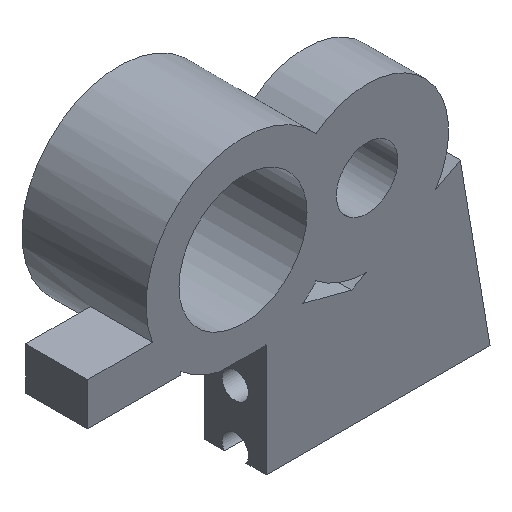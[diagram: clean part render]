
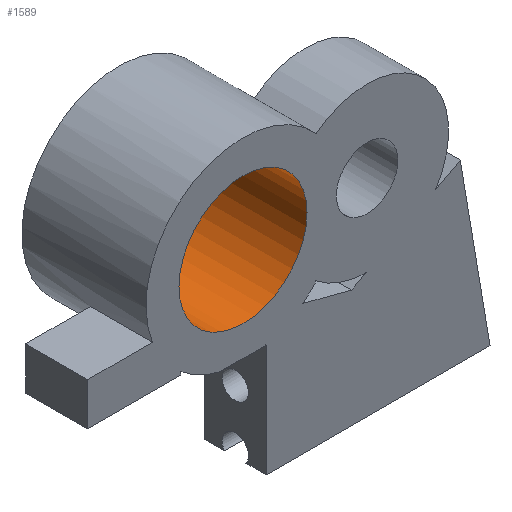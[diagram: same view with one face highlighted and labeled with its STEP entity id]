
A CAD part, isometric view. The second image highlights one B-rep face of the part: STEP entity #1589.
In plain terms, the highlighted cylindrical face has radius 8.25 mm (diameter 16.5 mm), a full revolution.
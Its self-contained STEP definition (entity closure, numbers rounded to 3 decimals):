
#455 = PLANE('',#456);
#456 = AXIS2_PLACEMENT_3D('',#457,#458,#459);
#457 = CARTESIAN_POINT('',(62.082,52.7,-211.193));
#458 = DIRECTION('',(-0.,-1.,-0.));
#459 = DIRECTION('',(0.,0.,-1.));
#1435 = EDGE_CURVE('',#1436,#1436,#1438,.T.);
#1436 = VERTEX_POINT('',#1437);
#1437 = CARTESIAN_POINT('',(56.25,52.7,-195.));
#1438 = SURFACE_CURVE('',#1439,(#1444,#1451),.PCURVE_S1.);
#1439 = CIRCLE('',#1440,8.25);
#1440 = AXIS2_PLACEMENT_3D('',#1441,#1442,#1443);
#1441 = CARTESIAN_POINT('',(48.,52.7,-195.));
#1442 = DIRECTION('',(0.,-1.,-0.));
#1443 = DIRECTION('',(1.,0.,0.));
#1444 = PCURVE('',#455,#1445);
#1445 = DEFINITIONAL_REPRESENTATION('',(#1446),#1450);
#1446 = CIRCLE('',#1447,8.25);
#1447 = AXIS2_PLACEMENT_2D('',#1448,#1449);
#1448 = CARTESIAN_POINT('',(-16.193,-14.082));
#1449 = DIRECTION('',(0.,1.));
#1450 = ( GEOMETRIC_REPRESENTATION_CONTEXT(2) 
PARAMETRIC_REPRESENTATION_CONTEXT() REPRESENTATION_CONTEXT('2D SPACE',''
  ) );
#1451 = PCURVE('',#1452,#1457);
#1452 = CYLINDRICAL_SURFACE('',#1453,8.25);
#1453 = AXIS2_PLACEMENT_3D('',#1454,#1455,#1456);
#1454 = CARTESIAN_POINT('',(48.,51.7,-195.));
#1455 = DIRECTION('',(0.,-1.,-0.));
#1456 = DIRECTION('',(1.,0.,0.));
#1457 = DEFINITIONAL_REPRESENTATION('',(#1458),#1462);
#1458 = LINE('',#1459,#1460);
#1459 = CARTESIAN_POINT('',(-6.283,-1.));
#1460 = VECTOR('',#1461,1.);
#1461 = DIRECTION('',(1.,-0.));
#1462 = ( GEOMETRIC_REPRESENTATION_CONTEXT(2) 
PARAMETRIC_REPRESENTATION_CONTEXT() REPRESENTATION_CONTEXT('2D SPACE',''
  ) );
#1589 = ADVANCED_FACE('',(#1590),#1452,.F.);
#1590 = FACE_BOUND('',#1591,.T.);
#1591 = EDGE_LOOP('',(#1592,#1593,#1616,#1647));
#1592 = ORIENTED_EDGE('',*,*,#1435,.T.);
#1593 = ORIENTED_EDGE('',*,*,#1594,.T.);
#1594 = EDGE_CURVE('',#1436,#1595,#1597,.T.);
#1595 = VERTEX_POINT('',#1596);
#1596 = CARTESIAN_POINT('',(56.25,68.7,-195.));
#1597 = SEAM_CURVE('',#1598,(#1602,#1609),.PCURVE_S1.);
#1598 = LINE('',#1599,#1600);
#1599 = CARTESIAN_POINT('',(56.25,51.7,-195.));
#1600 = VECTOR('',#1601,1.);
#1601 = DIRECTION('',(0.,1.,0.));
#1602 = PCURVE('',#1452,#1603);
#1603 = DEFINITIONAL_REPRESENTATION('',(#1604),#1608);
#1604 = LINE('',#1605,#1606);
#1605 = CARTESIAN_POINT('',(-6.283,0.));
#1606 = VECTOR('',#1607,1.);
#1607 = DIRECTION('',(-0.,-1.));
#1608 = ( GEOMETRIC_REPRESENTATION_CONTEXT(2) 
PARAMETRIC_REPRESENTATION_CONTEXT() REPRESENTATION_CONTEXT('2D SPACE',''
  ) );
#1609 = PCURVE('',#1452,#1610);
#1610 = DEFINITIONAL_REPRESENTATION('',(#1611),#1615);
#1611 = LINE('',#1612,#1613);
#1612 = CARTESIAN_POINT('',(-0.,0.));
#1613 = VECTOR('',#1614,1.);
#1614 = DIRECTION('',(-0.,-1.));
#1615 = ( GEOMETRIC_REPRESENTATION_CONTEXT(2) 
PARAMETRIC_REPRESENTATION_CONTEXT() REPRESENTATION_CONTEXT('2D SPACE',''
  ) );
#1616 = ORIENTED_EDGE('',*,*,#1617,.F.);
#1617 = EDGE_CURVE('',#1595,#1595,#1618,.T.);
#1618 = SURFACE_CURVE('',#1619,(#1624,#1631),.PCURVE_S1.);
#1619 = CIRCLE('',#1620,8.25);
#1620 = AXIS2_PLACEMENT_3D('',#1621,#1622,#1623);
#1621 = CARTESIAN_POINT('',(48.,68.7,-195.));
#1622 = DIRECTION('',(0.,-1.,-0.));
#1623 = DIRECTION('',(1.,0.,0.));
#1624 = PCURVE('',#1452,#1625);
#1625 = DEFINITIONAL_REPRESENTATION('',(#1626),#1630);
#1626 = LINE('',#1627,#1628);
#1627 = CARTESIAN_POINT('',(-6.283,-17.));
#1628 = VECTOR('',#1629,1.);
#1629 = DIRECTION('',(1.,-0.));
#1630 = ( GEOMETRIC_REPRESENTATION_CONTEXT(2) 
PARAMETRIC_REPRESENTATION_CONTEXT() REPRESENTATION_CONTEXT('2D SPACE',''
  ) );
#1631 = PCURVE('',#1632,#1637);
#1632 = PLANE('',#1633);
#1633 = AXIS2_PLACEMENT_3D('',#1634,#1635,#1636);
#1634 = CARTESIAN_POINT('',(48.,68.7,-195.));
#1635 = DIRECTION('',(0.,1.,0.));
#1636 = DIRECTION('',(0.,-0.,1.));
#1637 = DEFINITIONAL_REPRESENTATION('',(#1638),#1646);
#1638 = ( BOUNDED_CURVE() B_SPLINE_CURVE(2,(#1639,#1640,#1641,#1642,
#1643,#1644,#1645),.UNSPECIFIED.,.T.,.F.) B_SPLINE_CURVE_WITH_KNOTS((1,2
    ,2,2,2,1),(-2.094,0.,2.094,4.189,
6.283,8.378),.UNSPECIFIED.) CURVE() 
GEOMETRIC_REPRESENTATION_ITEM() RATIONAL_B_SPLINE_CURVE((1.,0.5,1.,0.5,
1.,0.5,1.)) REPRESENTATION_ITEM('') );
#1639 = CARTESIAN_POINT('',(0.,8.25));
#1640 = CARTESIAN_POINT('',(14.289,8.25));
#1641 = CARTESIAN_POINT('',(7.145,-4.125));
#1642 = CARTESIAN_POINT('',(0.,-16.5));
#1643 = CARTESIAN_POINT('',(-7.145,-4.125));
#1644 = CARTESIAN_POINT('',(-14.289,8.25));
#1645 = CARTESIAN_POINT('',(0.,8.25));
#1646 = ( GEOMETRIC_REPRESENTATION_CONTEXT(2) 
PARAMETRIC_REPRESENTATION_CONTEXT() REPRESENTATION_CONTEXT('2D SPACE',''
  ) );
#1647 = ORIENTED_EDGE('',*,*,#1594,.F.);
